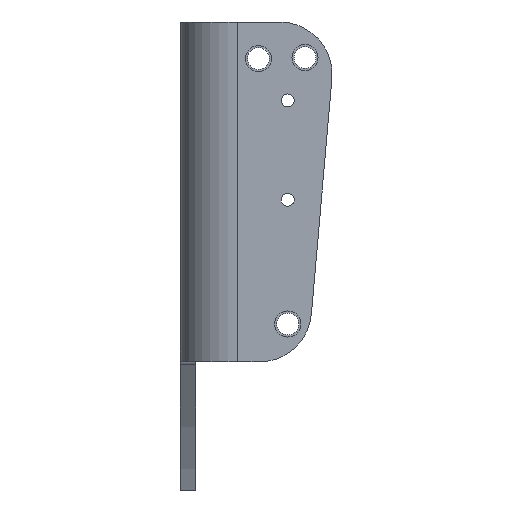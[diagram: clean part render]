
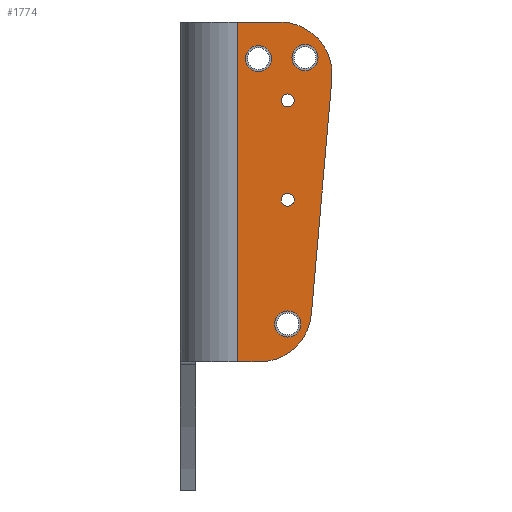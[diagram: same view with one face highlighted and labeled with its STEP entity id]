
A CAD part, left-side view. The second image highlights one B-rep face of the part: STEP entity #1774.
In plain terms, the highlighted planar face has unit normal (-1, 0, 0).
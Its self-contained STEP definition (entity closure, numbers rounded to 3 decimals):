
#30 = ORIENTED_EDGE ( 'NONE', *, *, #5311, .F. ) ;
#119 = CARTESIAN_POINT ( 'NONE',  ( -159., -12., 40.5 ) ) ;
#120 = LINE ( 'NONE', #614, #950 ) ;
#175 = DIRECTION ( 'NONE',  ( 0., 1., 0. ) ) ;
#181 = EDGE_LOOP ( 'NONE', ( #4743, #294 ) ) ;
#194 = DIRECTION ( 'NONE',  ( 0., 0., 1. ) ) ;
#222 = LINE ( 'NONE', #1569, #2104 ) ;
#273 = CARTESIAN_POINT ( 'NONE',  ( -159., -20.898, 35.7 ) ) ;
#278 = DIRECTION ( 'NONE',  ( -1., 0., 0. ) ) ;
#294 = ORIENTED_EDGE ( 'NONE', *, *, #5081, .F. ) ;
#302 = VERTEX_POINT ( 'NONE', #645 ) ;
#351 = CIRCLE ( 'NONE', #4028, 2.5 ) ;
#414 = CIRCLE ( 'NONE', #3489, 1.25 ) ;
#453 = CARTESIAN_POINT ( 'NONE',  ( -159., -12.15, -20. ) ) ;
#474 = DIRECTION ( 'NONE',  ( 0., 1., 0. ) ) ;
#509 = CIRCLE ( 'NONE', #4544, 1.25 ) ;
#519 = DIRECTION ( 'NONE',  ( 0., 0., 1. ) ) ;
#528 = LINE ( 'NONE', #1271, #2465 ) ;
#586 = CARTESIAN_POINT ( 'NONE',  ( -159., -17.594, 31.25 ) ) ;
#595 = VERTEX_POINT ( 'NONE', #119 ) ;
#614 = CARTESIAN_POINT ( 'NONE',  ( -159., -47., -20. ) ) ;
#621 = CARTESIAN_POINT ( 'NONE',  ( -159., -20.898, 40.7 ) ) ;
#645 = CARTESIAN_POINT ( 'NONE',  ( -159., -17.594, 12.25 ) ) ;
#653 = VECTOR ( 'NONE', #2049, 1000. ) ;
#755 = CARTESIAN_POINT ( 'NONE',  ( -159., -8., -20. ) ) ;
#855 = EDGE_CURVE ( 'NONE', #5076, #2469, #1216, .T. ) ;
#881 = DIRECTION ( 'NONE',  ( 0., 0., 1. ) ) ;
#932 = EDGE_CURVE ( 'NONE', #3861, #3125, #528, .T. ) ;
#938 = PLANE ( 'NONE',  #1710 ) ;
#950 = VECTOR ( 'NONE', #175, 1000. ) ;
#1019 = CIRCLE ( 'NONE', #2063, 1.25 ) ;
#1111 = DIRECTION ( 'NONE',  ( 0., 0.087, -0.996 ) ) ;
#1116 = ORIENTED_EDGE ( 'NONE', *, *, #932, .T. ) ;
#1129 = AXIS2_PLACEMENT_3D ( 'NONE', #1491, #3139, #194 ) ;
#1212 = VERTEX_POINT ( 'NONE', #2041 ) ;
#1216 = CIRCLE ( 'NONE', #4638, 2.5 ) ;
#1271 = CARTESIAN_POINT ( 'NONE',  ( -159., -47., 45. ) ) ;
#1287 = EDGE_CURVE ( 'NONE', #3415, #3861, #3087, .T. ) ;
#1379 = DIRECTION ( 'NONE',  ( 0., 0., 1. ) ) ;
#1491 = CARTESIAN_POINT ( 'NONE',  ( -159., -20.898, 38.2 ) ) ;
#1519 = EDGE_LOOP ( 'NONE', ( #5262, #2992 ) ) ;
#1569 = CARTESIAN_POINT ( 'NONE',  ( -159., -27.152, 46.736 ) ) ;
#1637 = CARTESIAN_POINT ( 'NONE',  ( -159., -47., 45. ) ) ;
#1683 = LINE ( 'NONE', #755, #653 ) ;
#1706 = VERTEX_POINT ( 'NONE', #273 ) ;
#1710 = AXIS2_PLACEMENT_3D ( 'NONE', #1637, #3915, #3227 ) ;
#1721 = FACE_BOUND ( 'NONE', #1957, .T. ) ;
#1759 = EDGE_CURVE ( 'NONE', #3093, #4760, #1019, .T. ) ;
#1774 = ADVANCED_FACE ( 'NONE', ( #3808, #1721, #5089, #3020, #2996, #4698 ), #938, .F. ) ;
#1823 = CARTESIAN_POINT ( 'NONE',  ( -159., -26.049, 34.128 ) ) ;
#1865 = CIRCLE ( 'NONE', #2050, 10. ) ;
#1889 = CARTESIAN_POINT ( 'NONE',  ( -159., -20.898, 38.2 ) ) ;
#1957 = EDGE_LOOP ( 'NONE', ( #5312, #4383 ) ) ;
#1981 = EDGE_CURVE ( 'NONE', #3125, #1212, #1683, .T. ) ;
#1989 = CARTESIAN_POINT ( 'NONE',  ( -159., -17.594, -12.75 ) ) ;
#2013 = CIRCLE ( 'NONE', #2365, 2.5 ) ;
#2026 = EDGE_CURVE ( 'NONE', #302, #4569, #5325, .T. ) ;
#2041 = CARTESIAN_POINT ( 'NONE',  ( -159., -8., -20. ) ) ;
#2049 = DIRECTION ( 'NONE',  ( 0., 0., -1. ) ) ;
#2050 = AXIS2_PLACEMENT_3D ( 'NONE', #5251, #4868, #4839 ) ;
#2063 = AXIS2_PLACEMENT_3D ( 'NONE', #5060, #2937, #881 ) ;
#2101 = CIRCLE ( 'NONE', #4285, 2.5 ) ;
#2104 = VECTOR ( 'NONE', #1111, 1000. ) ;
#2163 = EDGE_CURVE ( 'NONE', #4760, #3093, #414, .T. ) ;
#2207 = EDGE_CURVE ( 'NONE', #4251, #1706, #4718, .T. ) ;
#2319 = ORIENTED_EDGE ( 'NONE', *, *, #2163, .F. ) ;
#2344 = ORIENTED_EDGE ( 'NONE', *, *, #1759, .F. ) ;
#2354 = CARTESIAN_POINT ( 'NONE',  ( -159., -12., 35.5 ) ) ;
#2365 = AXIS2_PLACEMENT_3D ( 'NONE', #5166, #3889, #3073 ) ;
#2465 = VECTOR ( 'NONE', #474, 1000. ) ;
#2469 = VERTEX_POINT ( 'NONE', #2479 ) ;
#2479 = CARTESIAN_POINT ( 'NONE',  ( -159., -17.594, -15.25 ) ) ;
#2559 = EDGE_CURVE ( 'NONE', #1706, #4251, #3823, .T. ) ;
#2585 = ORIENTED_EDGE ( 'NONE', *, *, #1287, .T. ) ;
#2715 = EDGE_CURVE ( 'NONE', #3197, #4548, #1865, .T. ) ;
#2723 = DIRECTION ( 'NONE',  ( -1., 0., 0. ) ) ;
#2872 = CARTESIAN_POINT ( 'NONE',  ( -159., -17.594, -10.25 ) ) ;
#2924 = DIRECTION ( 'NONE',  ( 0., 0., 1. ) ) ;
#2937 = DIRECTION ( 'NONE',  ( -1., 0., 0. ) ) ;
#2947 = CARTESIAN_POINT ( 'NONE',  ( -159., -17.594, -12.75 ) ) ;
#2992 = ORIENTED_EDGE ( 'NONE', *, *, #2559, .F. ) ;
#2996 = FACE_BOUND ( 'NONE', #4957, .T. ) ;
#3020 = FACE_BOUND ( 'NONE', #181, .T. ) ;
#3036 = CARTESIAN_POINT ( 'NONE',  ( -159., -17.594, 30. ) ) ;
#3073 = DIRECTION ( 'NONE',  ( 0., 0., 1. ) ) ;
#3087 = CIRCLE ( 'NONE', #3180, 10. ) ;
#3093 = VERTEX_POINT ( 'NONE', #5363 ) ;
#3125 = VERTEX_POINT ( 'NONE', #3207 ) ;
#3139 = DIRECTION ( 'NONE',  ( -1., 0., 0. ) ) ;
#3158 = EDGE_LOOP ( 'NONE', ( #4422, #2585, #1116, #3605, #3302, #3954 ) ) ;
#3161 = CARTESIAN_POINT ( 'NONE',  ( -159., -16.087, 45. ) ) ;
#3180 = AXIS2_PLACEMENT_3D ( 'NONE', #3662, #5347, #3249 ) ;
#3197 = VERTEX_POINT ( 'NONE', #453 ) ;
#3207 = CARTESIAN_POINT ( 'NONE',  ( -159., -8., 45. ) ) ;
#3227 = DIRECTION ( 'NONE',  ( 0., 0., -1. ) ) ;
#3249 = DIRECTION ( 'NONE',  ( 0., 0., -1. ) ) ;
#3281 = DIRECTION ( 'NONE',  ( 0., 0., 1. ) ) ;
#3302 = ORIENTED_EDGE ( 'NONE', *, *, #4654, .F. ) ;
#3313 = CARTESIAN_POINT ( 'NONE',  ( -159., -17.594, 9.75 ) ) ;
#3336 = CARTESIAN_POINT ( 'NONE',  ( -159., -12., 38. ) ) ;
#3365 = DIRECTION ( 'NONE',  ( -1., 0., 0. ) ) ;
#3415 = VERTEX_POINT ( 'NONE', #1823 ) ;
#3442 = DIRECTION ( 'NONE',  ( -1., 0., 0. ) ) ;
#3489 = AXIS2_PLACEMENT_3D ( 'NONE', #3036, #4712, #1379 ) ;
#3605 = ORIENTED_EDGE ( 'NONE', *, *, #1981, .T. ) ;
#3639 = ORIENTED_EDGE ( 'NONE', *, *, #855, .F. ) ;
#3662 = CARTESIAN_POINT ( 'NONE',  ( -159., -16.087, 35. ) ) ;
#3808 = FACE_BOUND ( 'NONE', #4300, .T. ) ;
#3815 = EDGE_CURVE ( 'NONE', #4569, #302, #509, .T. ) ;
#3823 = CIRCLE ( 'NONE', #3999, 2.5 ) ;
#3846 = DIRECTION ( 'NONE',  ( 0., 0., 1. ) ) ;
#3861 = VERTEX_POINT ( 'NONE', #3161 ) ;
#3889 = DIRECTION ( 'NONE',  ( -1., 0., 0. ) ) ;
#3915 = DIRECTION ( 'NONE',  ( 1., 0., 0. ) ) ;
#3950 = CARTESIAN_POINT ( 'NONE',  ( -159., -17.594, 11. ) ) ;
#3954 = ORIENTED_EDGE ( 'NONE', *, *, #2715, .T. ) ;
#3999 = AXIS2_PLACEMENT_3D ( 'NONE', #1889, #5199, #519 ) ;
#4028 = AXIS2_PLACEMENT_3D ( 'NONE', #1989, #278, #5348 ) ;
#4181 = CARTESIAN_POINT ( 'NONE',  ( -159., -22.112, -10.872 ) ) ;
#4251 = VERTEX_POINT ( 'NONE', #621 ) ;
#4285 = AXIS2_PLACEMENT_3D ( 'NONE', #3336, #5384, #3281 ) ;
#4288 = DIRECTION ( 'NONE',  ( 0., 0., 1. ) ) ;
#4300 = EDGE_LOOP ( 'NONE', ( #2319, #2344 ) ) ;
#4306 = EDGE_CURVE ( 'NONE', #595, #4823, #2013, .T. ) ;
#4339 = AXIS2_PLACEMENT_3D ( 'NONE', #4573, #3365, #2924 ) ;
#4383 = ORIENTED_EDGE ( 'NONE', *, *, #3815, .F. ) ;
#4422 = ORIENTED_EDGE ( 'NONE', *, *, #5335, .F. ) ;
#4544 = AXIS2_PLACEMENT_3D ( 'NONE', #3950, #2723, #3846 ) ;
#4548 = VERTEX_POINT ( 'NONE', #4181 ) ;
#4569 = VERTEX_POINT ( 'NONE', #3313 ) ;
#4573 = CARTESIAN_POINT ( 'NONE',  ( -159., -17.594, 11. ) ) ;
#4638 = AXIS2_PLACEMENT_3D ( 'NONE', #2947, #3442, #4288 ) ;
#4654 = EDGE_CURVE ( 'NONE', #3197, #1212, #120, .T. ) ;
#4698 = FACE_OUTER_BOUND ( 'NONE', #3158, .T. ) ;
#4712 = DIRECTION ( 'NONE',  ( -1., 0., 0. ) ) ;
#4718 = CIRCLE ( 'NONE', #1129, 2.5 ) ;
#4743 = ORIENTED_EDGE ( 'NONE', *, *, #4306, .F. ) ;
#4760 = VERTEX_POINT ( 'NONE', #586 ) ;
#4823 = VERTEX_POINT ( 'NONE', #2354 ) ;
#4839 = DIRECTION ( 'NONE',  ( 0., 0., -1. ) ) ;
#4868 = DIRECTION ( 'NONE',  ( -1., 0., 0. ) ) ;
#4957 = EDGE_LOOP ( 'NONE', ( #3639, #30 ) ) ;
#5060 = CARTESIAN_POINT ( 'NONE',  ( -159., -17.594, 30. ) ) ;
#5076 = VERTEX_POINT ( 'NONE', #2872 ) ;
#5081 = EDGE_CURVE ( 'NONE', #4823, #595, #2101, .T. ) ;
#5089 = FACE_BOUND ( 'NONE', #1519, .T. ) ;
#5166 = CARTESIAN_POINT ( 'NONE',  ( -159., -12., 38. ) ) ;
#5199 = DIRECTION ( 'NONE',  ( -1., 0., 0. ) ) ;
#5251 = CARTESIAN_POINT ( 'NONE',  ( -159., -12.15, -10. ) ) ;
#5262 = ORIENTED_EDGE ( 'NONE', *, *, #2207, .F. ) ;
#5311 = EDGE_CURVE ( 'NONE', #2469, #5076, #351, .T. ) ;
#5312 = ORIENTED_EDGE ( 'NONE', *, *, #2026, .F. ) ;
#5325 = CIRCLE ( 'NONE', #4339, 1.25 ) ;
#5335 = EDGE_CURVE ( 'NONE', #3415, #4548, #222, .T. ) ;
#5347 = DIRECTION ( 'NONE',  ( -1., 0., 0. ) ) ;
#5348 = DIRECTION ( 'NONE',  ( 0., 0., 1. ) ) ;
#5363 = CARTESIAN_POINT ( 'NONE',  ( -159., -17.594, 28.75 ) ) ;
#5384 = DIRECTION ( 'NONE',  ( -1., 0., 0. ) ) ;
